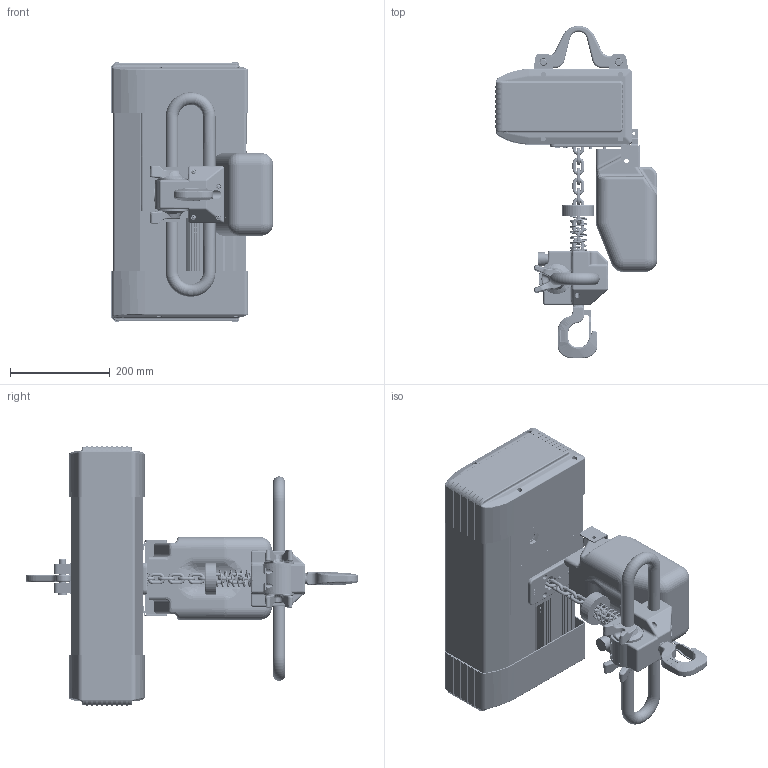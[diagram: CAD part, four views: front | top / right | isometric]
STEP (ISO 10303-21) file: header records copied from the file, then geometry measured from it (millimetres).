
FILE_DESCRIPTION(/* description */ (''),/* implementation_level */ '2;1');
FILE_NAME(/* name */ 'JJQ 01-01 固定式同轴.stp',/* time_stamp */ '2026-08-25T08:08:04+08:00',/* author */ (''),/* organization */ (''),/* preprocessor_version */ 'ST-DEVELOPER v16.7',/* originating_system */ 'SIEMENS PLM Software NX 12.0',/* authorisation */ '');
FILE_SCHEMA (('AUTOMOTIVE_DESIGN { 1 0 10303 214 3 1 1 1 }'));
Products named in the file (1): A0DA821529nyu
Bounding box: 325.53 x 665.75 x 522.5 mm (x, y, z)
Volume: 17539299.7 mm3; surface area: 1745203.5 mm2
Topology: 26 solids, 31 shells, 4382 faces, 10992 edges, 6656 vertices
Faces by surface type: plane 1463, cylinder 1430, bspline 680, torus 388, extrusion 181, cone 122, sphere 118
Full cylindrical faces by diameter (mm): 1.467 x1, 1.707 x1, 2.5 x2, 3.4 x4, 3.838 x4, 4 x6, 4.2 x4, 4.3 x1, 4.5 x8, 5 x2, 5.14 x2, 5.8 x2, 6.2 x3, 6.5 x8, 6.8 x4, 7 x80, 7.46 x1, 8 x6, 9 x4, 10.5 x16, 11 x1, 12 x1, 14 x2, 14.5 x10, 15 x2, 15.037 x4, 15.2 x2, 18 x3, 18.5 x1, 18.8 x1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
Entity records: 178164 total; most frequent: CARTESIAN_POINT 81300, ORIENTED_EDGE 20610, DIRECTION 18946, EDGE_CURVE 10305, AXIS2_PLACEMENT_3D 6924, VERTEX_POINT 6384, VECTOR 5098, LINE 4917
